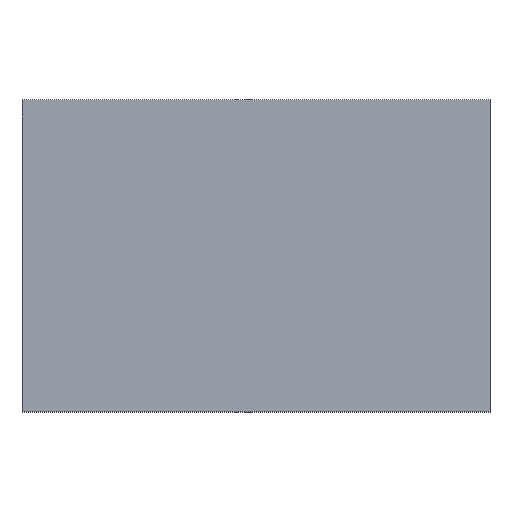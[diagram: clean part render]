
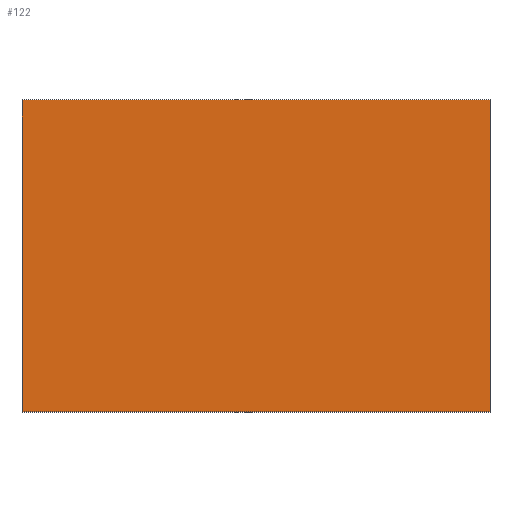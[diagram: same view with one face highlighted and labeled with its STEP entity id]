
A CAD part, top view. The second image highlights one B-rep face of the part: STEP entity #122.
In plain terms, the highlighted planar face has unit normal (0, 0, 1).
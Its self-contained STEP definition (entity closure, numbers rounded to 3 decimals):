
#24 = VERTEX_POINT('',#25);
#25 = CARTESIAN_POINT('',(0.,0.,16.));
#40 = VERTEX_POINT('',#41);
#41 = CARTESIAN_POINT('',(0.,80.,16.));
#47 = EDGE_CURVE('',#24,#40,#48,.T.);
#48 = LINE('',#49,#50);
#49 = CARTESIAN_POINT('',(0.,0.,16.));
#50 = VECTOR('',#51,1.);
#51 = DIRECTION('',(-0.,1.,0.));
#104 = EDGE_CURVE('',#24,#105,#107,.T.);
#105 = VERTEX_POINT('',#106);
#106 = CARTESIAN_POINT('',(120.,0.,16.));
#107 = LINE('',#108,#109);
#108 = CARTESIAN_POINT('',(0.,0.,16.));
#109 = VECTOR('',#110,1.);
#110 = DIRECTION('',(1.,0.,-0.));
#122 = ADVANCED_FACE('',(#123),#141,.T.);
#123 = FACE_BOUND('',#124,.T.);
#124 = EDGE_LOOP('',(#125,#126,#127,#135));
#125 = ORIENTED_EDGE('',*,*,#47,.F.);
#126 = ORIENTED_EDGE('',*,*,#104,.T.);
#127 = ORIENTED_EDGE('',*,*,#128,.T.);
#128 = EDGE_CURVE('',#105,#129,#131,.T.);
#129 = VERTEX_POINT('',#130);
#130 = CARTESIAN_POINT('',(120.,80.,16.));
#131 = LINE('',#132,#133);
#132 = CARTESIAN_POINT('',(120.,0.,16.));
#133 = VECTOR('',#134,1.);
#134 = DIRECTION('',(-0.,1.,0.));
#135 = ORIENTED_EDGE('',*,*,#136,.F.);
#136 = EDGE_CURVE('',#40,#129,#137,.T.);
#137 = LINE('',#138,#139);
#138 = CARTESIAN_POINT('',(0.,80.,16.));
#139 = VECTOR('',#140,1.);
#140 = DIRECTION('',(1.,0.,-0.));
#141 = PLANE('',#142);
#142 = AXIS2_PLACEMENT_3D('',#143,#144,#145);
#143 = CARTESIAN_POINT('',(0.,0.,16.));
#144 = DIRECTION('',(0.,0.,1.));
#145 = DIRECTION('',(1.,0.,-0.));
